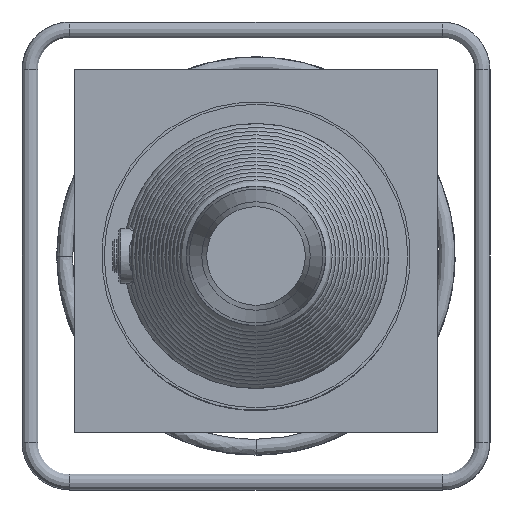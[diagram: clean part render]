
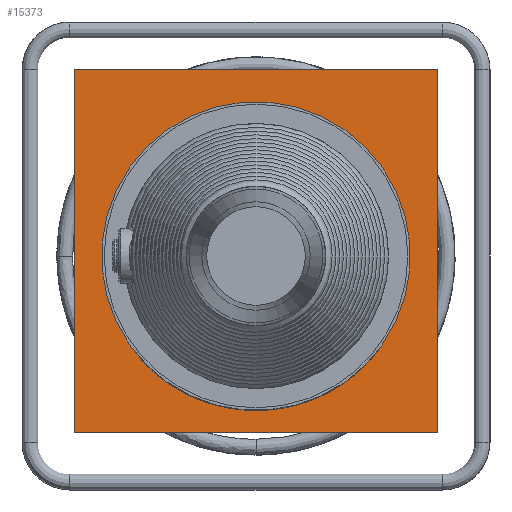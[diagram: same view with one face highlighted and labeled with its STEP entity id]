
A CAD part, left-side view. The second image highlights one B-rep face of the part: STEP entity #15373.
In plain terms, the highlighted planar face has unit normal (-1, 0, 0).
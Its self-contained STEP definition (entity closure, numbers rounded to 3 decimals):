
#1562=PLANE('',#16254);
#2432=LINE('',#40897,#3312);
#2436=LINE('',#40904,#3316);
#2439=LINE('',#40909,#3319);
#2442=LINE('',#40913,#3322);
#3312=VECTOR('',#18856,365.);
#3316=VECTOR('',#18862,365.);
#3319=VECTOR('',#18867,365.);
#3322=VECTOR('',#18872,365.);
#3617=FACE_BOUND('',#5598,.T.);
#4520=FACE_OUTER_BOUND('',#5597,.T.);
#5597=EDGE_LOOP('',(#14042,#14043,#14044,#14045));
#5598=EDGE_LOOP('',(#14046));
#5975=CIRCLE('',#16018,155.);
#7439=VERTEX_POINT('',#35722);
#7576=VERTEX_POINT('',#40895);
#7577=VERTEX_POINT('',#40896);
#7579=VERTEX_POINT('',#40903);
#7580=VERTEX_POINT('',#40908);
#9570=EDGE_CURVE('',#7439,#7439,#5975,.T.);
#9741=EDGE_CURVE('',#7576,#7577,#2432,.T.);
#9745=EDGE_CURVE('',#7577,#7579,#2436,.T.);
#9748=EDGE_CURVE('',#7579,#7580,#2439,.T.);
#9751=EDGE_CURVE('',#7580,#7576,#2442,.T.);
#14042=ORIENTED_EDGE('',*,*,#9751,.T.);
#14043=ORIENTED_EDGE('',*,*,#9741,.T.);
#14044=ORIENTED_EDGE('',*,*,#9745,.T.);
#14045=ORIENTED_EDGE('',*,*,#9748,.T.);
#14046=ORIENTED_EDGE('',*,*,#9570,.T.);
#15373=ADVANCED_FACE('',(#4520,#3617),#1562,.T.);
#16018=AXIS2_PLACEMENT_3D('',#35723,#18384,#18385);
#16254=AXIS2_PLACEMENT_3D('',#40915,#18874,#18875);
#18384=DIRECTION('center_axis',(1.,0.,0.));
#18385=DIRECTION('ref_axis',(0.,0.419,0.908));
#18856=DIRECTION('',(0.,0.,-1.));
#18862=DIRECTION('',(0.,-1.,0.));
#18867=DIRECTION('',(0.,0.,1.));
#18872=DIRECTION('',(0.,1.,0.));
#18874=DIRECTION('center_axis',(-1.,0.,0.));
#18875=DIRECTION('ref_axis',(0.,0.,-1.));
#35722=CARTESIAN_POINT('',(-112.151,64.979,140.722));
#35723=CARTESIAN_POINT('Origin',(-112.151,0.,
0.));
#40895=CARTESIAN_POINT('',(-112.151,182.5,187.753));
#40896=CARTESIAN_POINT('',(-112.151,182.5,-177.247));
#40897=CARTESIAN_POINT('',(-112.151,182.5,187.753));
#40903=CARTESIAN_POINT('',(-112.151,-182.5,-177.247));
#40904=CARTESIAN_POINT('',(-112.151,182.5,-177.247));
#40908=CARTESIAN_POINT('',(-112.151,-182.5,187.753));
#40909=CARTESIAN_POINT('',(-112.151,-182.5,-177.247));
#40913=CARTESIAN_POINT('',(-112.151,-182.5,187.753));
#40915=CARTESIAN_POINT('Origin',(-112.151,0.,
5.253));
